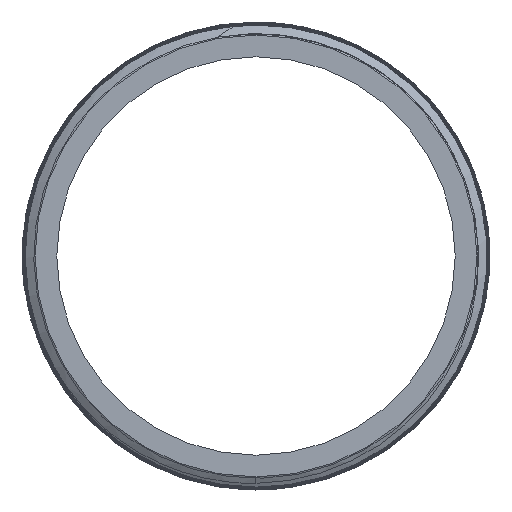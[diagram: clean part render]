
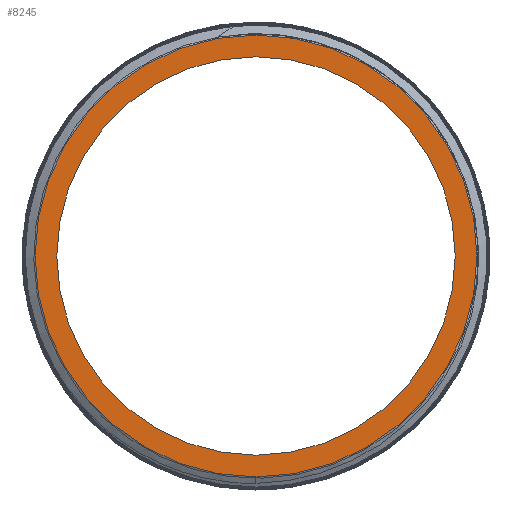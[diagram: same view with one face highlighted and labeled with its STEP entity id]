
A CAD part, left-side view. The second image highlights one B-rep face of the part: STEP entity #8245.
In plain terms, the highlighted planar face has unit normal (-1, 0, 0).
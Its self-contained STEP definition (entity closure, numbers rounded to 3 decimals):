
#46 = AXIS2_PLACEMENT_3D ( 'NONE', #3059, #1452, #9614 ) ;
#67 = CARTESIAN_POINT ( 'NONE',  ( -150., 11.45, 0. ) ) ;
#575 = EDGE_CURVE ( 'NONE', #2558, #4391, #1601, .T. ) ;
#1128 = CARTESIAN_POINT ( 'NONE',  ( -150., 0., 12.7 ) ) ;
#1452 = DIRECTION ( 'NONE',  ( -1., 0., 0. ) ) ;
#1601 = CIRCLE ( 'NONE', #6737, 12.7 ) ;
#1645 = EDGE_CURVE ( 'NONE', #8748, #9828, #7077, .T. ) ;
#1840 = DIRECTION ( 'NONE',  ( 1., 0., 0. ) ) ;
#2052 = EDGE_CURVE ( 'NONE', #4391, #2558, #4670, .T. ) ;
#2545 = CARTESIAN_POINT ( 'NONE',  ( -150., 0., 0. ) ) ;
#2558 = VERTEX_POINT ( 'NONE', #2728 ) ;
#2728 = CARTESIAN_POINT ( 'NONE',  ( -150., 0., -12.7 ) ) ;
#2887 = ORIENTED_EDGE ( 'NONE', *, *, #2052, .T. ) ;
#2967 = CARTESIAN_POINT ( 'NONE',  ( -150., 0., 0. ) ) ;
#3059 = CARTESIAN_POINT ( 'NONE',  ( -150., 0., 0. ) ) ;
#3350 = DIRECTION ( 'NONE',  ( 0., 0., -1. ) ) ;
#3934 = DIRECTION ( 'NONE',  ( -1., 0., 0. ) ) ;
#4391 = VERTEX_POINT ( 'NONE', #1128 ) ;
#4670 = CIRCLE ( 'NONE', #46, 12.7 ) ;
#4910 = ORIENTED_EDGE ( 'NONE', *, *, #575, .T. ) ;
#5065 = FACE_BOUND ( 'NONE', #9773, .T. ) ;
#5941 = ORIENTED_EDGE ( 'NONE', *, *, #7616, .F. ) ;
#5966 = CARTESIAN_POINT ( 'NONE',  ( -150., 0., 11.45 ) ) ;
#6575 = DIRECTION ( 'NONE',  ( 0., 0., 1. ) ) ;
#6627 = DIRECTION ( 'NONE',  ( -1., 0., 0. ) ) ;
#6737 = AXIS2_PLACEMENT_3D ( 'NONE', #2967, #3934, #9571 ) ;
#6874 = CIRCLE ( 'NONE', #10132, 11.45 ) ;
#7077 = CIRCLE ( 'NONE', #9309, 11.45 ) ;
#7223 = ORIENTED_EDGE ( 'NONE', *, *, #1645, .F. ) ;
#7431 = CARTESIAN_POINT ( 'NONE',  ( -150., 0., -11.45 ) ) ;
#7616 = EDGE_CURVE ( 'NONE', #9828, #8748, #6874, .T. ) ;
#7620 = DIRECTION ( 'NONE',  ( 0., 0., 1. ) ) ;
#8245 = ADVANCED_FACE ( 'NONE', ( #5065, #8345 ), #9055, .F. ) ;
#8345 = FACE_OUTER_BOUND ( 'NONE', #10287, .T. ) ;
#8475 = CARTESIAN_POINT ( 'NONE',  ( -150., 0., 0. ) ) ;
#8748 = VERTEX_POINT ( 'NONE', #5966 ) ;
#9055 = PLANE ( 'NONE',  #10439 ) ;
#9230 = DIRECTION ( 'NONE',  ( -1., 0., 0. ) ) ;
#9309 = AXIS2_PLACEMENT_3D ( 'NONE', #2545, #6627, #6575 ) ;
#9571 = DIRECTION ( 'NONE',  ( 0., 0., 1. ) ) ;
#9614 = DIRECTION ( 'NONE',  ( 0., 0., 1. ) ) ;
#9773 = EDGE_LOOP ( 'NONE', ( #7223, #5941 ) ) ;
#9828 = VERTEX_POINT ( 'NONE', #7431 ) ;
#10132 = AXIS2_PLACEMENT_3D ( 'NONE', #8475, #9230, #7620 ) ;
#10287 = EDGE_LOOP ( 'NONE', ( #4910, #2887 ) ) ;
#10439 = AXIS2_PLACEMENT_3D ( 'NONE', #67, #1840, #3350 ) ;
